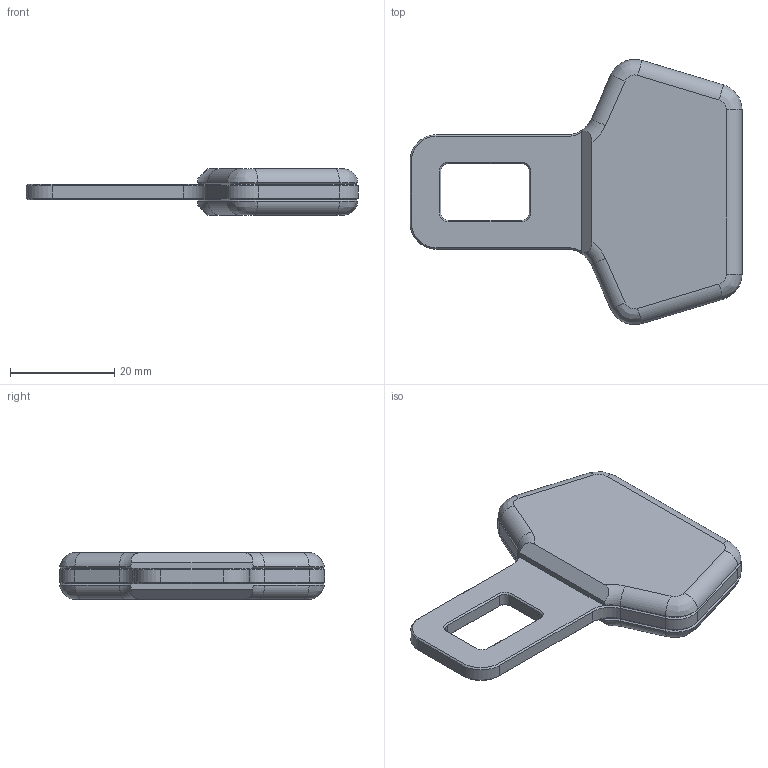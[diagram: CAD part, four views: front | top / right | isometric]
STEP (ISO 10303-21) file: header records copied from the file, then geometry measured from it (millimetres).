
FILE_DESCRIPTION(/* description */ (''),/* implementation_level */ '2;1');
FILE_NAME(/* name */ 'belt v2.step',/* time_stamp */ '2024-01-02T09:24:46+03:00',/* author */ (''),/* organization */ (''),/* preprocessor_version */ 'ST-DEVELOPER v20',/* originating_system */ 'Autodesk Translation Framework v12.14.0.127',/* authorisation */ '');
FILE_SCHEMA (('AUTOMOTIVE_DESIGN { 1 0 10303 214 3 1 1 }'));
Length unit declared in the file: millimetre
Products named in the file (1): belt
Bounding box: 63.8 x 50.98 x 9 mm (x, y, z)
Volume: 13078.1 mm3; surface area: 10192.9 mm2
Topology: 3 solids, 3 shells, 126 faces, 292 edges, 172 vertices
Faces by surface type: plane 56, cone 36, cylinder 22, bspline 8, torus 4
Entity records: 3633 total; most frequent: CARTESIAN_POINT 719, DIRECTION 622, ORIENTED_EDGE 584, EDGE_CURVE 292, AXIS2_PLACEMENT_3D 223, LINE 176, VECTOR 176, VERTEX_POINT 172
